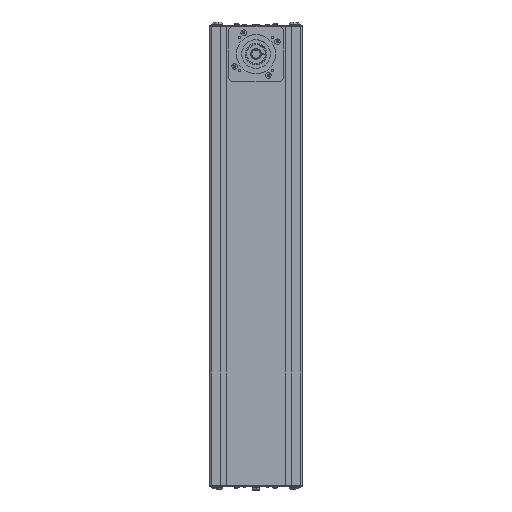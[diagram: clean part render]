
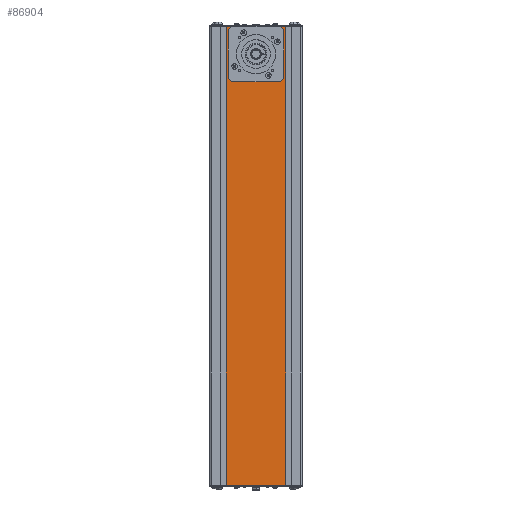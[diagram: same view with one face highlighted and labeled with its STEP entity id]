
A CAD part, front view. The second image highlights one B-rep face of the part: STEP entity #86904.
In plain terms, the highlighted planar face has unit normal (0, -1, 0).
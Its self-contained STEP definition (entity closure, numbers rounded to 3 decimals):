
#1017 = DIRECTION ( 'NONE',  ( 0., 1., 0. ) ) ;
#1100 = FACE_BOUND ( 'NONE', #58223, .T. ) ;
#1603 = EDGE_LOOP ( 'NONE', ( #84627, #10774 ) ) ;
#1626 = DIRECTION ( 'NONE',  ( 0., 0., -1. ) ) ;
#2279 = CIRCLE ( 'NONE', #60000, 3.4 ) ;
#2761 = LINE ( 'NONE', #56044, #55542 ) ;
#3213 = EDGE_CURVE ( 'NONE', #71720, #10955, #19153, .T. ) ;
#3750 = DIRECTION ( 'NONE',  ( 0., 0., -1. ) ) ;
#3778 = VERTEX_POINT ( 'NONE', #7359 ) ;
#5206 = VERTEX_POINT ( 'NONE', #33043 ) ;
#7359 = CARTESIAN_POINT ( 'NONE',  ( 0., 0., 392. ) ) ;
#7725 = DIRECTION ( 'NONE',  ( 0., 0., -1. ) ) ;
#7778 = CARTESIAN_POINT ( 'NONE',  ( 0., 0., 482. ) ) ;
#8028 = CARTESIAN_POINT ( 'NONE',  ( -64., 0., 497. ) ) ;
#9584 = DIRECTION ( 'NONE',  ( 0., -1., 0. ) ) ;
#9932 = CARTESIAN_POINT ( 'NONE',  ( -64., 0., -497. ) ) ;
#10617 = DIRECTION ( 'NONE',  ( 0., -1., 0. ) ) ;
#10774 = ORIENTED_EDGE ( 'NONE', *, *, #64178, .F. ) ;
#10785 = EDGE_CURVE ( 'NONE', #20196, #30837, #72886, .T. ) ;
#10955 = VERTEX_POINT ( 'NONE', #67130 ) ;
#10995 = ORIENTED_EDGE ( 'NONE', *, *, #86932, .F. ) ;
#11724 = EDGE_CURVE ( 'NONE', #35920, #83734, #2279, .T. ) ;
#12792 = EDGE_CURVE ( 'NONE', #52653, #18115, #67658, .T. ) ;
#13410 = AXIS2_PLACEMENT_3D ( 'NONE', #28561, #76716, #35496 ) ;
#13553 = DIRECTION ( 'NONE',  ( 0., -1., 0. ) ) ;
#13853 = CARTESIAN_POINT ( 'NONE',  ( -64., 0., -497. ) ) ;
#14862 = DIRECTION ( 'NONE',  ( 1., 0., 0. ) ) ;
#16883 = DIRECTION ( 'NONE',  ( 1., 0., 0. ) ) ;
#16885 = ORIENTED_EDGE ( 'NONE', *, *, #12792, .F. ) ;
#17742 = ORIENTED_EDGE ( 'NONE', *, *, #32604, .F. ) ;
#18115 = VERTEX_POINT ( 'NONE', #64318 ) ;
#18801 = ORIENTED_EDGE ( 'NONE', *, *, #10785, .T. ) ;
#19153 = CIRCLE ( 'NONE', #77789, 3.4 ) ;
#19474 = FACE_BOUND ( 'NONE', #71237, .T. ) ;
#19879 = CARTESIAN_POINT ( 'NONE',  ( -42.426, 0., 391.174 ) ) ;
#20140 = EDGE_CURVE ( 'NONE', #18115, #52653, #45996, .T. ) ;
#20196 = VERTEX_POINT ( 'NONE', #13853 ) ;
#21618 = FACE_BOUND ( 'NONE', #52802, .T. ) ;
#22007 = ORIENTED_EDGE ( 'NONE', *, *, #33770, .T. ) ;
#22648 = DIRECTION ( 'NONE',  ( 0., -1., 0. ) ) ;
#22769 = EDGE_CURVE ( 'NONE', #5206, #59850, #62680, .T. ) ;
#22809 = CIRCLE ( 'NONE', #74311, 3.4 ) ;
#25756 = LINE ( 'NONE', #8028, #62367 ) ;
#26606 = ORIENTED_EDGE ( 'NONE', *, *, #20140, .F. ) ;
#27345 = EDGE_CURVE ( 'NONE', #3778, #27735, #79391, .T. ) ;
#27735 = VERTEX_POINT ( 'NONE', #7778 ) ;
#28561 = CARTESIAN_POINT ( 'NONE',  ( 42.426, 0., 479.426 ) ) ;
#30837 = VERTEX_POINT ( 'NONE', #74430 ) ;
#31866 = CARTESIAN_POINT ( 'NONE',  ( 42.426, 0., 479.426 ) ) ;
#32604 = EDGE_CURVE ( 'NONE', #10955, #71720, #22809, .T. ) ;
#33043 = CARTESIAN_POINT ( 'NONE',  ( 42.426, 0., 476.026 ) ) ;
#33770 = EDGE_CURVE ( 'NONE', #47560, #20196, #25756, .T. ) ;
#34009 = EDGE_CURVE ( 'NONE', #68621, #30837, #57922, .T. ) ;
#35184 = CARTESIAN_POINT ( 'NONE',  ( -42.426, 0., 394.574 ) ) ;
#35496 = DIRECTION ( 'NONE',  ( 0., 0., -1. ) ) ;
#35920 = VERTEX_POINT ( 'NONE', #53138 ) ;
#36272 = DIRECTION ( 'NONE',  ( 0., -1., 0. ) ) ;
#37059 = DIRECTION ( 'NONE',  ( 0., -1., 0. ) ) ;
#38149 = ORIENTED_EDGE ( 'NONE', *, *, #3213, .F. ) ;
#38739 = DIRECTION ( 'NONE',  ( 0., 0., -1. ) ) ;
#39324 = AXIS2_PLACEMENT_3D ( 'NONE', #50836, #9584, #57696 ) ;
#39638 = VECTOR ( 'NONE', #3750, 1000. ) ;
#39903 = FACE_BOUND ( 'NONE', #1603, .T. ) ;
#40021 = AXIS2_PLACEMENT_3D ( 'NONE', #54738, #13553, #61672 ) ;
#41343 = EDGE_CURVE ( 'NONE', #47560, #68621, #2761, .T. ) ;
#42089 = DIRECTION ( 'NONE',  ( 0., 0., -1. ) ) ;
#42915 = DIRECTION ( 'NONE',  ( 0., -1., 0. ) ) ;
#45996 = CIRCLE ( 'NONE', #40021, 3.4 ) ;
#47560 = VERTEX_POINT ( 'NONE', #48816 ) ;
#48511 = CARTESIAN_POINT ( 'NONE',  ( 42.426, 0., 482.826 ) ) ;
#48816 = CARTESIAN_POINT ( 'NONE',  ( -64., 0., 497. ) ) ;
#49274 = DIRECTION ( 'NONE',  ( 0., 0., 1. ) ) ;
#50212 = CARTESIAN_POINT ( 'NONE',  ( 64., 0., 497. ) ) ;
#50836 = CARTESIAN_POINT ( 'NONE',  ( -42.426, 0., 479.426 ) ) ;
#51829 = CARTESIAN_POINT ( 'NONE',  ( 0., 0., 437. ) ) ;
#52653 = VERTEX_POINT ( 'NONE', #76587 ) ;
#52802 = EDGE_LOOP ( 'NONE', ( #38149, #17742 ) ) ;
#53138 = CARTESIAN_POINT ( 'NONE',  ( -42.426, 0., 476.026 ) ) ;
#54089 = CIRCLE ( 'NONE', #84271, 45. ) ;
#54587 = VECTOR ( 'NONE', #16883, 1000. ) ;
#54738 = CARTESIAN_POINT ( 'NONE',  ( 42.426, 0., 394.574 ) ) ;
#55325 = AXIS2_PLACEMENT_3D ( 'NONE', #31866, #80002, #38739 ) ;
#55542 = VECTOR ( 'NONE', #14862, 1000. ) ;
#55846 = CARTESIAN_POINT ( 'NONE',  ( -64., 0., 497. ) ) ;
#56044 = CARTESIAN_POINT ( 'NONE',  ( -64., 0., 497. ) ) ;
#56512 = AXIS2_PLACEMENT_3D ( 'NONE', #55846, #1017, #49274 ) ;
#57381 = EDGE_LOOP ( 'NONE', ( #64750, #89178 ) ) ;
#57696 = DIRECTION ( 'NONE',  ( 0., 0., -1. ) ) ;
#57922 = LINE ( 'NONE', #72421, #39638 ) ;
#58223 = EDGE_LOOP ( 'NONE', ( #86212, #10995 ) ) ;
#58699 = DIRECTION ( 'NONE',  ( 0., 0., -1. ) ) ;
#59850 = VERTEX_POINT ( 'NONE', #48511 ) ;
#60000 = AXIS2_PLACEMENT_3D ( 'NONE', #63906, #22648, #70825 ) ;
#61672 = DIRECTION ( 'NONE',  ( 0., 0., -1. ) ) ;
#62367 = VECTOR ( 'NONE', #7725, 1000. ) ;
#62680 = CIRCLE ( 'NONE', #55325, 3.4 ) ;
#63171 = ORIENTED_EDGE ( 'NONE', *, *, #34009, .F. ) ;
#63232 = ORIENTED_EDGE ( 'NONE', *, *, #41343, .F. ) ;
#63906 = CARTESIAN_POINT ( 'NONE',  ( -42.426, 0., 479.426 ) ) ;
#64178 = EDGE_CURVE ( 'NONE', #59850, #5206, #81789, .T. ) ;
#64278 = EDGE_CURVE ( 'NONE', #83734, #35920, #69842, .T. ) ;
#64318 = CARTESIAN_POINT ( 'NONE',  ( 42.426, 0., 391.174 ) ) ;
#64750 = ORIENTED_EDGE ( 'NONE', *, *, #11724, .F. ) ;
#66700 = CARTESIAN_POINT ( 'NONE',  ( -42.426, 0., 482.826 ) ) ;
#67130 = CARTESIAN_POINT ( 'NONE',  ( -42.426, 0., 397.974 ) ) ;
#67658 = CIRCLE ( 'NONE', #85034, 3.4 ) ;
#68621 = VERTEX_POINT ( 'NONE', #50212 ) ;
#69842 = CIRCLE ( 'NONE', #39324, 3.4 ) ;
#70825 = DIRECTION ( 'NONE',  ( 0., 0., -1. ) ) ;
#71237 = EDGE_LOOP ( 'NONE', ( #26606, #16885 ) ) ;
#71720 = VERTEX_POINT ( 'NONE', #19879 ) ;
#72007 = EDGE_LOOP ( 'NONE', ( #18801, #63171, #63232, #22007 ) ) ;
#72212 = FACE_OUTER_BOUND ( 'NONE', #72007, .T. ) ;
#72421 = CARTESIAN_POINT ( 'NONE',  ( 64., 0., 497. ) ) ;
#72886 = LINE ( 'NONE', #9932, #54587 ) ;
#74311 = AXIS2_PLACEMENT_3D ( 'NONE', #78340, #37059, #85308 ) ;
#74381 = FACE_BOUND ( 'NONE', #57381, .T. ) ;
#74430 = CARTESIAN_POINT ( 'NONE',  ( 64., 0., -497. ) ) ;
#76587 = CARTESIAN_POINT ( 'NONE',  ( 42.426, 0., 397.974 ) ) ;
#76716 = DIRECTION ( 'NONE',  ( 0., -1., 0. ) ) ;
#77527 = CARTESIAN_POINT ( 'NONE',  ( 0., 0., 437. ) ) ;
#77789 = AXIS2_PLACEMENT_3D ( 'NONE', #35184, #83384, #42089 ) ;
#78340 = CARTESIAN_POINT ( 'NONE',  ( -42.426, 0., 394.574 ) ) ;
#79391 = CIRCLE ( 'NONE', #80685, 45. ) ;
#80002 = DIRECTION ( 'NONE',  ( 0., -1., 0. ) ) ;
#80685 = AXIS2_PLACEMENT_3D ( 'NONE', #51829, #10617, #58699 ) ;
#81789 = CIRCLE ( 'NONE', #13410, 3.4 ) ;
#83384 = DIRECTION ( 'NONE',  ( 0., -1., 0. ) ) ;
#83587 = PLANE ( 'NONE',  #56512 ) ;
#83734 = VERTEX_POINT ( 'NONE', #66700 ) ;
#84195 = CARTESIAN_POINT ( 'NONE',  ( 42.426, 0., 394.574 ) ) ;
#84271 = AXIS2_PLACEMENT_3D ( 'NONE', #77527, #36272, #84507 ) ;
#84507 = DIRECTION ( 'NONE',  ( 0., 0., -1. ) ) ;
#84627 = ORIENTED_EDGE ( 'NONE', *, *, #22769, .F. ) ;
#85034 = AXIS2_PLACEMENT_3D ( 'NONE', #84195, #42915, #1626 ) ;
#85308 = DIRECTION ( 'NONE',  ( 0., 0., -1. ) ) ;
#86212 = ORIENTED_EDGE ( 'NONE', *, *, #27345, .F. ) ;
#86904 = ADVANCED_FACE ( 'NONE', ( #39903, #19474, #74381, #21618, #1100, #72212 ), #83587, .F. ) ;
#86932 = EDGE_CURVE ( 'NONE', #27735, #3778, #54089, .T. ) ;
#89178 = ORIENTED_EDGE ( 'NONE', *, *, #64278, .F. ) ;
